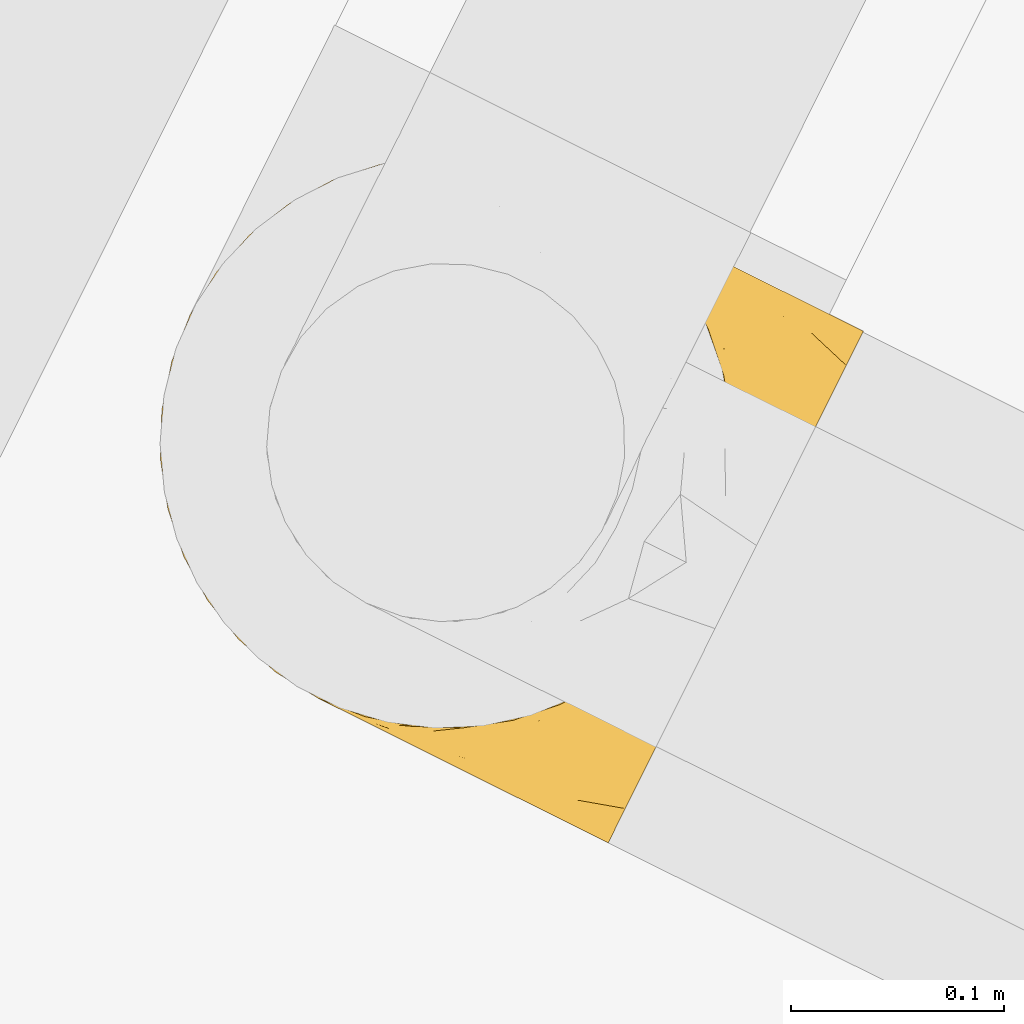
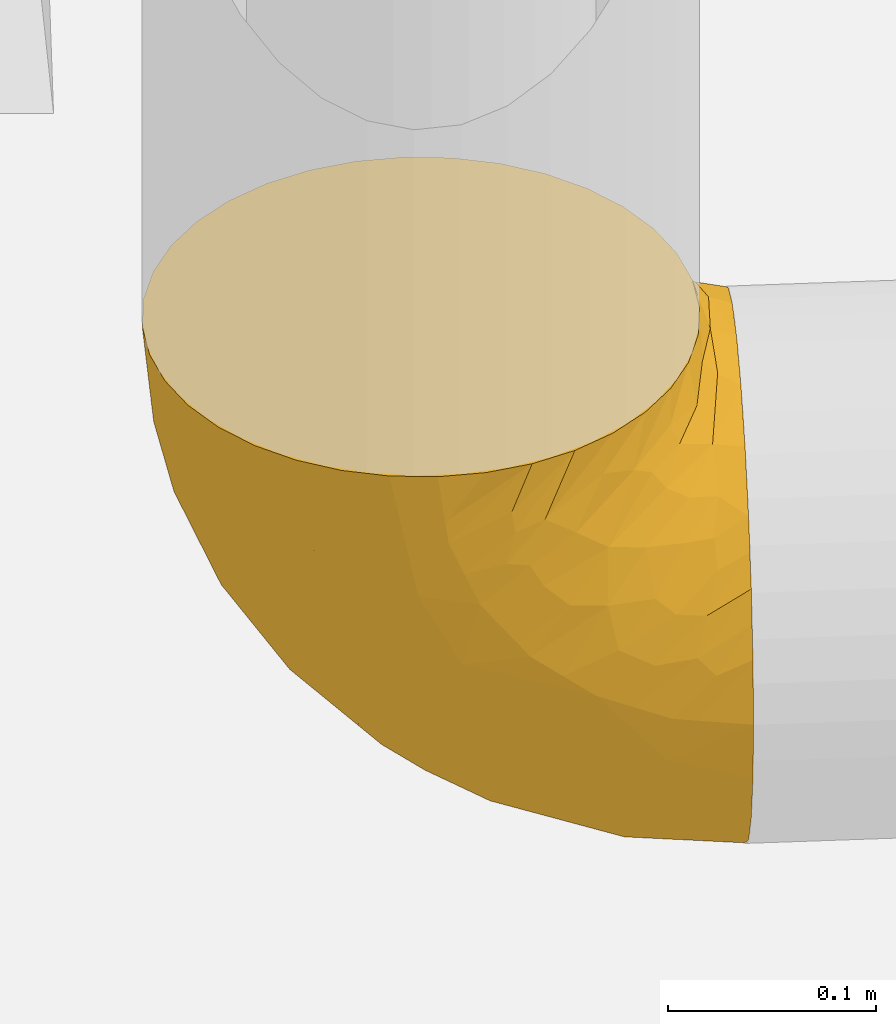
# One storey, part 36 of 91: 1 covering.
"""IFC2X3 building model written with IfcOpenShell, lengths in metres."""

from ifc_helpers import new_model, entity, si_unit, converted_unit, derived_unit, direction, frame, origin, place, context, subcontext, project, spatial, faceted_brep, element, save


model = new_model("IFC2X3")

# Units and contexts
model_context = context("Model", 3, precision=1e-05, world=origin(), true_north=direction((0.894925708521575, 0.446215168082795)))
context_of_model = context(None, 3, precision=1e-05, world=origin(), true_north=direction((0.894925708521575, 0.446215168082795)))
body_context = subcontext(model_context, "Body", "Model", "MODEL_VIEW")
ifc_project = project(units=[si_unit("LENGTHUNIT", "METRE"), si_unit("AREAUNIT", "SQUARE_METRE"), si_unit("VOLUMEUNIT", "CUBIC_METRE"), converted_unit("PLANEANGLEUNIT", "DEGREE", entity("IfcRatioMeasure", 0.0174532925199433), si_unit("PLANEANGLEUNIT", "RADIAN"), dimensions=[0, 0, 0, 0, 0, 0, 0]), si_unit("MASSUNIT", "GRAM", prefix="KILO"), si_unit("TIMEUNIT", "SECOND"), si_unit("FREQUENCYUNIT", "HERTZ"), si_unit("THERMODYNAMICTEMPERATUREUNIT", "DEGREE_CELSIUS"), derived_unit("THERMALTRANSMITTANCEUNIT", [(si_unit("MASSUNIT", "GRAM", prefix="KILO"), 1), (si_unit("THERMODYNAMICTEMPERATUREUNIT", "KELVIN"), -1), (si_unit("TIMEUNIT", "SECOND"), -3)]), derived_unit("VOLUMETRICFLOWRATEUNIT", [(si_unit("LENGTHUNIT", "METRE"), 3), (si_unit("TIMEUNIT", "SECOND"), -1)]), si_unit("ELECTRICCURRENTUNIT", "AMPERE"), si_unit("ELECTRICVOLTAGEUNIT", "VOLT"), si_unit("POWERUNIT", "WATT"), si_unit("FORCEUNIT", "NEWTON", prefix="KILO"), si_unit("ILLUMINANCEUNIT", "LUX"), si_unit("LUMINOUSFLUXUNIT", "LUMEN"), si_unit("LUMINOUSINTENSITYUNIT", "CANDELA"), si_unit("PRESSUREUNIT", "PASCAL")], contexts=[model_context, context_of_model])

# Site, building, storey
site_placement = place(None, frame((218.228324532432, 584.720189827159, 0.0), z_axis=(0.0, 0.0, 1.0), x_axis=(0.446215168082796, 0.894925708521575, 0.0)))
site = spatial("IfcSite", under=ifc_project, at=site_placement, Name="Default", CompositionType="ELEMENT")
building_placement = place(site_placement, origin())
building = spatial("IfcBuilding", under=site, at=building_placement, CompositionType="ELEMENT")
storey_placement = place(building_placement, origin())
storey = spatial("IfcBuildingStorey", under=building, at=storey_placement, Name="0 - Piano Terra", CompositionType="ELEMENT", Elevation=0.0)

# Covering
covering_placement = place(storey_placement, frame((-36.2585976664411, -4.5388117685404, 3.16425472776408)))
element("IfcCovering", 1, at=covering_placement, inside=storey, Name="Isolamento tubazione:Default", ObjectType="Isolamento tubazione:Default", PredefinedType="INSULATION", context=body_context, shape_type="Brep", body=[
    faceted_brep([(0.26180595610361, 0.199474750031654, 0.287745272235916), (0.251922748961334, 0.220669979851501, 0.287745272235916), (0.238508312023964, 0.23982740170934, 0.287745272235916), (0.221970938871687, 0.256363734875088, 0.287745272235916), (0.202814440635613, 0.269775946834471, 0.287745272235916), (0.181622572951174, 0.279656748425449, 0.287745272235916), (0.159039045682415, 0.28570743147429, 0.287745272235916), (0.135745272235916, 0.287745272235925, 0.287745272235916), (0.112453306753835, 0.285707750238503, 0.287745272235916), (0.0898657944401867, 0.279655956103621, 0.287745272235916), (0.0686705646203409, 0.269772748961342, 0.287745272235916), (0.0495131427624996, 0.256358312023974, 0.287745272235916), (0.0329768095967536, 0.239820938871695, 0.287745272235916), (0.0195645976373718, 0.220664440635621, 0.287745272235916), (0.00968379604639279, 0.199472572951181, 0.287745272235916), (0.00363311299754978, 0.176889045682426, 0.287745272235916), (0.0015952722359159, 0.153595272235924, 0.287745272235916), (0.00288094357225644, 0.138898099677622, 0.287745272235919), (0.00363279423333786, 0.130303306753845, 0.287745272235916), (0.00968458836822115, 0.107715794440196, 0.287745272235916), (0.0195677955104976, 0.0865205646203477, 0.287745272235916), (0.0329822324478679, 0.0673631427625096, 0.287745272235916), (0.0495196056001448, 0.0508268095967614, 0.287745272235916), (0.0686761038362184, 0.0374145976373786, 0.287745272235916), (0.0898679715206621, 0.0275337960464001, 0.287745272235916), (0.112451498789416, 0.0214831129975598, 0.287745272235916), (0.135745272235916, 0.0194452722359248, 0.287745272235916), (0.159037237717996, 0.0214827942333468, 0.287745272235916), (0.181624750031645, 0.0275345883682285, 0.287745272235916), (0.202819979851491, 0.0374177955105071, 0.287745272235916), (0.221977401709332, 0.0508322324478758, 0.287745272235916), (0.238513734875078, 0.0673696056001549, 0.287745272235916), (0.25192594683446, 0.086526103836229, 0.287745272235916), (0.261806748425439, 0.107717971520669, 0.287745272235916), (0.267857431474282, 0.130301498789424, 0.287745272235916), (0.268609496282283, 0.138898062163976, 0.287745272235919), (0.269895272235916, 0.153595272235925, 0.287745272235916), (0.267857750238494, 0.176887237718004, 0.287745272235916), (0.13574527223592, 0.0015952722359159, 0.269895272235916), (0.101024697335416, 0.0015952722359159, 0.265324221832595), (0.0686702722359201, 0.0015952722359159, 0.251922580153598), (0.0408868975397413, 0.0015952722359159, 0.230603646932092), (0.0302274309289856, 0.00159527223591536, 0.216711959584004), (0.0195679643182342, 0.0015952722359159, 0.202820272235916), (0.0128671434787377, 0.00159527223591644, 0.186643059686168), (0.00616632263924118, 0.0015952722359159, 0.17046584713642), (0.00355977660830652, 0.00159527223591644, 0.150667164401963), (0.0015952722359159, 0.00159527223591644, 0.135745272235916), (0.00616632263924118, 0.00159527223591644, 0.101024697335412), (0.0195679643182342, 0.00159527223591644, 0.0686702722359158), (0.0408868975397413, 0.00159527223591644, 0.0408868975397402), (0.0686702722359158, 0.00159527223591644, 0.0195679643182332), (0.101024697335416, 0.00159527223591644, 0.00616632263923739), (0.135745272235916, 0.00159527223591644, 0.0015952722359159), (0.17046584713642, 0.00159527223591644, 0.00616632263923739), (0.202820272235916, 0.00159527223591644, 0.0195679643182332), (0.230603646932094, 0.00159527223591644, 0.0408868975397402), (0.251922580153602, 0.00159527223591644, 0.0686702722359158), (0.265324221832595, 0.00159527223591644, 0.101024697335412), (0.269895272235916, 0.00159527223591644, 0.135745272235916), (0.267930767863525, 0.0015952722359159, 0.150667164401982), (0.265324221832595, 0.0015952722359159, 0.170465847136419), (0.258623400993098, 0.00159527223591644, 0.186643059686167), (0.251922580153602, 0.0015952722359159, 0.202820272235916), (0.241263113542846, 0.0015952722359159, 0.216711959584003), (0.230603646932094, 0.0015952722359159, 0.230603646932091), (0.20282027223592, 0.0015952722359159, 0.251922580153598), (0.17046584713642, 0.0015952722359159, 0.265324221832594), (0.173592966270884, 0.0793389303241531, 0.018025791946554), (0.135745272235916, 0.0574203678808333, 0.0070935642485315), (0.135745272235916, 0.11110013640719, 0.0233771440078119), (0.135745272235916, 0.282246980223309, 0.231920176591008), (0.159717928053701, 0.273936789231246, 0.207241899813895), (0.135745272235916, 0.265963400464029, 0.178240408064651), (0.170985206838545, 0.251669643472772, 0.158630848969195), (0.200241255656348, 0.241156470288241, 0.164011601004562), (0.173639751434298, 0.219063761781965, 0.110284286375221), (0.167491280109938, 0.138231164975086, 0.0406698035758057), (0.199265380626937, 0.124159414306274, 0.0469889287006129), (0.255399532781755, 0.0570178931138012, 0.0824390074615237), (0.212938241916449, 0.188464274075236, 0.104510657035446), (0.223457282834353, 0.21482195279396, 0.150639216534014), (0.243942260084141, 0.191593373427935, 0.1558220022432), (0.234087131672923, 0.0819819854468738, 0.0581703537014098), (0.135745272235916, 0.16057169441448, 0.0498202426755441), (0.26083327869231, 0.178269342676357, 0.19301425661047), (0.257743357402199, 0.152774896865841, 0.145189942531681), (0.135745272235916, 0.203933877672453, 0.0854066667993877), (0.135745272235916, 0.239520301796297, 0.128768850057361), (0.26269363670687, 0.0926265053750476, 0.114887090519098), (0.267352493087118, 0.0427674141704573, 0.114577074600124), (0.211715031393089, 0.0603098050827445, 0.0318283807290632), (0.236857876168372, 0.225253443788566, 0.200254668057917), (0.251339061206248, 0.106232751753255, 0.0941366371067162), (0.269895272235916, 0.0409357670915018, 0.140924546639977), (0.269895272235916, 0.028326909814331, 0.139264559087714), (0.269895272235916, 0.0157180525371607, 0.137604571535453), (0.269895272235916, 0.0775952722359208, 0.156109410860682), (0.269895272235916, 0.0592655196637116, 0.14851697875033), (0.252999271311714, 0.212298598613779, 0.235124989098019), (0.186228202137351, 0.175571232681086, 0.073111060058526), (0.159251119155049, 0.181506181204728, 0.0679034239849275), (0.266914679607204, 0.142030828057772, 0.17495543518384), (0.22542001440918, 0.247977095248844, 0.235921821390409), (0.269895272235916, 0.109075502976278, 0.180265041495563), (0.269895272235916, 0.0933353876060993, 0.168187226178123), (0.186827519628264, 0.269211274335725, 0.220056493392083), (0.208621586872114, 0.156043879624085, 0.0728637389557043), (0.235964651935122, 0.123868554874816, 0.0798632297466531), (0.244360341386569, 0.150188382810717, 0.111228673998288), (0.267685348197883, 0.162845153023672, 0.216594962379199), (0.269895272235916, 0.151735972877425, 0.273622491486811), (0.269895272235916, 0.150075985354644, 0.261013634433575), (0.269895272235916, 0.148415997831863, 0.248404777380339), (0.269895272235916, 0.133231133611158, 0.21174527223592), (0.269895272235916, 0.121153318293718, 0.196005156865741), (0.269895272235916, 0.115114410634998, 0.188135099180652), (0.218921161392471, 0.239896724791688, 0.190837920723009), (0.219832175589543, 0.117252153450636, 0.0587716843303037), (0.269895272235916, 0.140823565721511, 0.230075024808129), (0.257440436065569, 0.0862333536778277, 0.243401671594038), (0.266339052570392, 0.108928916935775, 0.231201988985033), (0.261505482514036, 0.10151694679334, 0.254512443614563), (0.265515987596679, 0.0282177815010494, 0.172784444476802), (0.267416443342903, 0.0488021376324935, 0.170566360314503), (0.25837922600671, 0.0233658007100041, 0.192583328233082), (0.234200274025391, 0.0570559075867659, 0.262635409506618), (0.2096322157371, 0.0379394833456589, 0.270963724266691), (0.247613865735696, 0.0175473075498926, 0.211432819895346), (0.238549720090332, 0.0186508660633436, 0.224176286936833), (0.262888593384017, 0.0712470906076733, 0.203626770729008), (0.162973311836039, 0.0188530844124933, 0.27641960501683), (0.224278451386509, 0.0160462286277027, 0.238613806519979), (0.228157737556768, 0.0301454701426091, 0.241020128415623), (0.203773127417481, 0.0172767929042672, 0.254920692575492), (0.265964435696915, 0.0898107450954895, 0.206743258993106), (0.172729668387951, 0.0128211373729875, 0.267614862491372), (0.190556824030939, 0.024017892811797, 0.268485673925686), (0.22954977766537, 0.0412634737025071, 0.248077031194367), (0.248264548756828, 0.0518606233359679, 0.226858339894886), (0.135745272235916, 0.0142171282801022, 0.275123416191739), (0.22892561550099, 0.0478490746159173, 0.257085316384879), (0.25401033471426, 0.0703790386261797, 0.231774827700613), (0.267242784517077, 0.066325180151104, 0.180278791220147), (0.259428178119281, 0.038221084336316, 0.194639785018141), (0.265732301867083, 0.117739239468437, 0.262576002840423), (0.266097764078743, 0.11613299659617, 0.250936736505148), (0.268138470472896, 0.120325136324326, 0.233920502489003), (0.244552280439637, 0.0725214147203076, 0.268344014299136), (0.211919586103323, 0.0337025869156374, 0.261333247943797), (0.266477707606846, 0.10241564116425, 0.219203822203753), (0.257840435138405, 0.0479963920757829, 0.203223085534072), (0.267289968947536, 0.0194576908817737, 0.163330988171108), (0.242459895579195, 0.0332297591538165, 0.224507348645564), (0.0329408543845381, 0.0186511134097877, 0.224176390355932), (0.0472120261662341, 0.0160469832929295, 0.238613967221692), (0.0290300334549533, 0.0332307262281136, 0.22450692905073), (0.0372947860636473, 0.0570503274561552, 0.262634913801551), (0.10612475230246, 0.0124987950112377, 0.269609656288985), (0.0269410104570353, 0.0725165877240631, 0.268340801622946), (0.00335319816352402, 0.120317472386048, 0.233920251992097), (0.0015952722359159, 0.133231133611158, 0.211745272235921), (0.00515136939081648, 0.108926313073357, 0.231195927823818), (0.0677158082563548, 0.0172784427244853, 0.254920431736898), (0.0174874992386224, 0.0703674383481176, 0.231782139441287), (0.014050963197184, 0.0862283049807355, 0.24339600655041), (0.105531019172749, 0.0199234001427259, 0.276899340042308), (0.080936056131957, 0.0240181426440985, 0.268487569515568), (0.0015952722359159, 0.0283269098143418, 0.139264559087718), (0.0015952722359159, 0.0157180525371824, 0.137604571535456), (0.00860216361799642, 0.0712466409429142, 0.203627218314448), (0.0232262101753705, 0.0518636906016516, 0.226861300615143), (0.00407410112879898, 0.048802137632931, 0.170566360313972), (0.0015952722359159, 0.0775952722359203, 0.156109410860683), (0.0015952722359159, 0.0592655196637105, 0.148516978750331), (0.0015952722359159, 0.148415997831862, 0.248404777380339), (0.0015952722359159, 0.14082356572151, 0.23007502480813), (0.00575946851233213, 0.117734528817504, 0.26257695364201), (0.0131113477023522, 0.0233657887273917, 0.192583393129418), (0.0238766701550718, 0.0175473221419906, 0.211432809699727), (0.00597455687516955, 0.0282177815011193, 0.172784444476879), (0.0425746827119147, 0.047841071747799, 0.257090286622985), (0.0618652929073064, 0.0379359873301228, 0.270967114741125), (0.0595746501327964, 0.0337015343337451, 0.261335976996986), (0.0015952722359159, 0.151735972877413, 0.273622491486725), (0.0015952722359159, 0.150075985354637, 0.261013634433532), (0.0099867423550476, 0.101511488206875, 0.254510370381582), (0.0419468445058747, 0.0412589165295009, 0.248080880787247), (0.00501312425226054, 0.102411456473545, 0.219199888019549), (0.00552776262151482, 0.089806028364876, 0.206747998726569), (0.0015952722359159, 0.109075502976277, 0.180265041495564), (0.00539385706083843, 0.116128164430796, 0.250936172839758), (0.0042477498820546, 0.0663252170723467, 0.180278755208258), (0.0015952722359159, 0.121153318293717, 0.196005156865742), (0.0136499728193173, 0.0479965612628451, 0.203222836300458), (0.0120623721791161, 0.0382211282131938, 0.19463981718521), (0.0015952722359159, 0.115114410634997, 0.188135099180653), (0.0015952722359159, 0.0933353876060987, 0.168187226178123), (0.0433316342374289, 0.0301467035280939, 0.241019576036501), (0.0042005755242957, 0.0194576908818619, 0.163330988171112), (0.0015952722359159, 0.0409357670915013, 0.140924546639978), (0.0597755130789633, 0.0603098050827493, 0.0318283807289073), (0.0184892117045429, 0.212294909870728, 0.235125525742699), (0.0106570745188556, 0.178268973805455, 0.193014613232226), (0.0275474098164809, 0.191589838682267, 0.155819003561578), (0.0346285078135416, 0.225247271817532, 0.200251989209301), (0.00879690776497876, 0.0926265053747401, 0.114887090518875), (0.00413805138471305, 0.0427674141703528, 0.114577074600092), (0.0045758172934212, 0.142030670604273, 0.174955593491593), (0.0585543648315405, 0.188454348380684, 0.104498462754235), (0.0712444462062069, 0.241149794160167, 0.164004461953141), (0.0978508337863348, 0.219063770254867, 0.110284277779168), (0.0525652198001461, 0.239892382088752, 0.190835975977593), (0.0846596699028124, 0.269208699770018, 0.220051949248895), (0.0160910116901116, 0.0570178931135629, 0.0824390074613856), (0.0355258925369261, 0.123868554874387, 0.0798632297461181), (0.0516583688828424, 0.117252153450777, 0.0587716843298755), (0.0374034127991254, 0.0819819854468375, 0.0581703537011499), (0.0978975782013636, 0.0793389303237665, 0.0180257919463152), (0.0201514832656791, 0.106232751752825, 0.0941366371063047), (0.103999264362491, 0.138231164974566, 0.0406698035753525), (0.0722251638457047, 0.124159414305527, 0.0469889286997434), (0.0480360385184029, 0.214821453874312, 0.150634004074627), (0.00380513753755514, 0.162844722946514, 0.21659477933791), (0.0852623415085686, 0.175571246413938, 0.0731110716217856), (0.0271302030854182, 0.150188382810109, 0.111228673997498), (0.0137471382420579, 0.152774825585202, 0.145190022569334), (0.0460646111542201, 0.247971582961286, 0.235921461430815), (0.112239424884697, 0.181506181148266, 0.0679034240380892), (0.11177089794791, 0.27393654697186, 0.207242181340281), (0.10794286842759, 0.251423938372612, 0.154294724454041), (0.0628686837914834, 0.156036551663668, 0.072858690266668)], [[[0, 1, 2, 3, 4, 5, 6, 7, 8, 9, 10, 11, 12, 13, 14, 15, 16, 17, 18, 19, 20, 21, 22, 23, 24, 25, 26, 27, 28, 29, 30, 31, 32, 33, 34, 35, 36, 37]], [[38, 39, 40, 41, 42, 43, 44, 45, 46, 47, 48, 49, 50, 51, 52, 53, 54, 55, 56, 57, 58, 59, 60, 61, 62, 63, 64, 65, 66, 67]], [[68, 69, 70]], [[69, 54, 53]], [[71, 72, 73]], [[74, 75, 76]], [[68, 77, 78]], [[79, 58, 57]], [[68, 55, 54]], [[80, 81, 82]], [[83, 57, 56]], [[84, 77, 70]], [[85, 86, 82]], [[76, 87, 88]], [[89, 90, 79]], [[91, 83, 56]], [[92, 82, 81]], [[89, 93, 86]], [[90, 94, 95, 96, 59]], [[90, 97, 98, 94]], [[99, 1, 0]], [[59, 58, 90]], [[100, 101, 76]], [[102, 86, 85]], [[89, 102, 97]], [[100, 78, 77]], [[103, 99, 92]], [[102, 104, 105, 97]], [[55, 91, 56]], [[74, 73, 72]], [[72, 6, 5]], [[4, 106, 5]], [[80, 107, 100]], [[106, 72, 5]], [[82, 99, 85]], [[3, 103, 4]], [[108, 109, 93]], [[71, 7, 6]], [[76, 75, 80]], [[103, 3, 2]], [[54, 69, 68]], [[110, 36, 111, 112, 113]], [[2, 1, 103]], [[110, 114, 102]], [[102, 114, 115, 116, 104]], [[36, 110, 37]], [[4, 103, 106]], [[99, 37, 85]], [[79, 93, 89]], [[102, 85, 110]], [[117, 103, 92]], [[117, 106, 103]], [[1, 99, 103]], [[107, 108, 118]], [[37, 99, 0]], [[73, 74, 88]], [[89, 86, 102]], [[68, 78, 91]], [[82, 86, 109]], [[80, 82, 109]], [[82, 92, 99]], [[68, 91, 55]], [[118, 91, 78]], [[6, 72, 71]], [[74, 106, 75]], [[80, 75, 81]], [[117, 81, 75]], [[57, 83, 79]], [[83, 108, 93]], [[37, 110, 85]], [[110, 113, 119, 114]], [[81, 117, 92]], [[106, 117, 75]], [[70, 77, 68]], [[84, 87, 101]], [[77, 84, 101]], [[80, 100, 76]], [[76, 101, 87]], [[77, 101, 100]], [[83, 93, 79]], [[86, 93, 109]], [[118, 108, 83]], [[80, 109, 108]], [[91, 118, 83]], [[107, 118, 78]], [[100, 107, 78]], [[108, 107, 80]], [[79, 90, 58]], [[90, 89, 97]], [[88, 74, 76]], [[106, 74, 72]], [[120, 121, 122]], [[60, 59, 96, 95, 61]], [[123, 124, 125]], [[126, 29, 127]], [[127, 29, 28]], [[123, 98, 124]], [[128, 129, 65]], [[104, 130, 105]], [[131, 27, 26]], [[62, 123, 63]], [[132, 133, 134]], [[104, 116, 135]], [[38, 67, 136]], [[137, 136, 134]], [[138, 133, 139]], [[140, 38, 136]], [[131, 136, 137]], [[126, 141, 142]], [[127, 28, 137]], [[124, 143, 144]], [[145, 33, 32]], [[65, 129, 132]], [[146, 122, 147]], [[148, 122, 31]], [[149, 127, 137]], [[33, 113, 112]], [[35, 34, 112, 111, 36]], [[134, 67, 66]], [[120, 126, 142]], [[33, 145, 113]], [[140, 131, 26]], [[141, 126, 127]], [[126, 120, 148]], [[30, 148, 31]], [[33, 112, 34]], [[28, 27, 131]], [[126, 30, 29]], [[121, 147, 122]], [[31, 122, 32]], [[128, 125, 144]], [[115, 121, 150]], [[121, 115, 114]], [[97, 105, 143]], [[130, 104, 135]], [[139, 142, 138]], [[143, 151, 144]], [[123, 94, 98]], [[62, 61, 152]], [[123, 62, 152]], [[98, 97, 124]], [[143, 124, 97]], [[125, 124, 144]], [[126, 148, 30]], [[122, 148, 120]], [[66, 65, 132]], [[149, 134, 138]], [[125, 128, 64]], [[123, 125, 63]], [[64, 128, 65]], [[64, 63, 125]], [[144, 151, 129]], [[144, 129, 128]], [[129, 153, 132]], [[133, 132, 153]], [[134, 66, 132]], [[153, 151, 139]], [[138, 134, 133]], [[153, 139, 133]], [[142, 139, 130]], [[146, 32, 122]], [[113, 145, 119]], [[94, 152, 95]], [[28, 131, 137]], [[136, 131, 140]], [[134, 136, 67]], [[134, 149, 137]], [[141, 149, 138]], [[149, 141, 127]], [[142, 141, 138]], [[121, 120, 150]], [[147, 121, 114]], [[120, 142, 150]], [[150, 116, 115]], [[135, 150, 142]], [[150, 135, 116]], [[130, 135, 142]], [[114, 119, 147]], [[146, 119, 145]], [[119, 146, 147]], [[32, 146, 145]], [[105, 130, 143]], [[130, 139, 151]], [[130, 151, 143]], [[129, 151, 153]], [[95, 152, 61]], [[123, 152, 94]], [[154, 155, 156]], [[22, 157, 23]], [[38, 140, 158]], [[22, 159, 157]], [[160, 161, 162]], [[39, 158, 163]], [[164, 157, 165]], [[166, 24, 167]], [[168, 169, 47, 46, 45]], [[164, 170, 171]], [[172, 173, 174]], [[175, 176, 177]], [[178, 42, 179]], [[41, 155, 154]], [[39, 163, 40]], [[43, 180, 44]], [[181, 182, 157]], [[182, 183, 167]], [[166, 167, 158]], [[19, 177, 20]], [[17, 16, 184, 185, 18]], [[182, 167, 24]], [[23, 182, 24]], [[186, 21, 20]], [[181, 164, 187]], [[188, 165, 162]], [[22, 21, 159]], [[170, 189, 190]], [[159, 186, 165]], [[191, 20, 177]], [[173, 172, 192]], [[167, 163, 158]], [[23, 157, 182]], [[185, 175, 19]], [[18, 185, 19]], [[162, 165, 186]], [[193, 188, 162]], [[166, 26, 25]], [[194, 170, 192]], [[154, 195, 179]], [[190, 189, 196]], [[172, 174, 180]], [[170, 190, 197]], [[192, 197, 173]], [[156, 198, 171]], [[199, 45, 44]], [[172, 178, 195]], [[180, 200, 199]], [[200, 180, 174]], [[178, 180, 43]], [[192, 172, 195]], [[186, 159, 21]], [[157, 159, 165]], [[183, 163, 167]], [[155, 198, 156]], [[180, 178, 172]], [[42, 41, 179]], [[178, 43, 42]], [[154, 179, 41]], [[178, 179, 195]], [[155, 41, 40]], [[154, 156, 194]], [[40, 163, 155]], [[198, 155, 163]], [[163, 187, 198]], [[171, 198, 187]], [[164, 171, 187]], [[171, 170, 194]], [[175, 177, 19]], [[176, 160, 191]], [[199, 168, 45]], [[38, 158, 39]], [[140, 26, 166]], [[140, 166, 158]], [[24, 166, 25]], [[164, 181, 157]], [[183, 181, 187]], [[181, 183, 182]], [[163, 183, 187]], [[160, 162, 186]], [[193, 162, 161]], [[188, 193, 196]], [[164, 165, 188]], [[189, 170, 164]], [[196, 189, 188]], [[188, 189, 164]], [[191, 160, 186]], [[176, 161, 160]], [[20, 191, 186]], [[176, 191, 177]], [[194, 192, 195]], [[170, 197, 192]], [[154, 194, 195]], [[194, 156, 171]], [[180, 199, 44]], [[168, 199, 200]], [[201, 51, 50]], [[15, 202, 203]], [[204, 202, 205]], [[173, 206, 207]], [[207, 200, 174, 173]], [[47, 207, 48]], [[208, 190, 196, 193, 161]], [[209, 210, 211]], [[13, 202, 14]], [[208, 173, 197, 190]], [[212, 213, 210]], [[48, 207, 214]], [[69, 53, 52]], [[203, 202, 204]], [[215, 216, 217]], [[201, 218, 51]], [[202, 15, 14]], [[70, 69, 218]], [[217, 214, 219]], [[220, 218, 221]], [[201, 50, 217]], [[49, 217, 50]], [[220, 70, 218]], [[222, 209, 204]], [[223, 161, 176, 175]], [[224, 209, 211]], [[204, 225, 226]], [[206, 208, 226]], [[16, 15, 223]], [[15, 203, 223]], [[13, 12, 227]], [[214, 49, 48]], [[202, 227, 205]], [[69, 52, 218]], [[51, 218, 52]], [[202, 13, 227]], [[217, 219, 215]], [[228, 87, 84]], [[73, 229, 71]], [[88, 211, 230]], [[211, 88, 87]], [[11, 227, 12]], [[9, 213, 10]], [[10, 213, 227]], [[229, 8, 71]], [[173, 208, 206]], [[7, 71, 8]], [[213, 229, 230]], [[226, 208, 203]], [[212, 205, 227]], [[228, 220, 224]], [[213, 230, 210]], [[225, 204, 209]], [[208, 223, 203]], [[10, 227, 11]], [[9, 8, 229]], [[226, 225, 219]], [[203, 204, 226]], [[204, 205, 222]], [[216, 201, 217]], [[218, 201, 221]], [[88, 230, 73]], [[229, 213, 9]], [[212, 222, 205]], [[210, 209, 222]], [[219, 214, 206]], [[217, 49, 214]], [[161, 223, 208]], [[223, 175, 185, 184, 16]], [[213, 212, 227]], [[222, 212, 210]], [[224, 220, 221]], [[70, 220, 84]], [[224, 221, 231]], [[228, 211, 87]], [[220, 228, 84]], [[211, 228, 224]], [[226, 219, 206]], [[219, 225, 215]], [[225, 209, 215]], [[216, 231, 221]], [[231, 215, 209]], [[201, 216, 221]], [[215, 231, 216]], [[224, 231, 209]], [[207, 47, 169, 168, 200]], [[214, 207, 206]], [[210, 230, 211]], [[73, 230, 229]]]),
])

save(model, "model.ifc")
